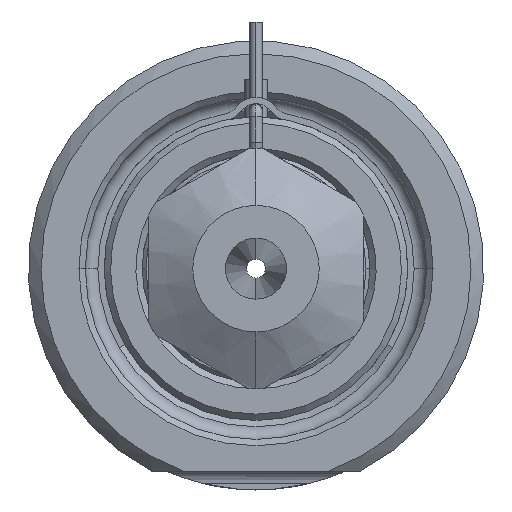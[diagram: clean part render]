
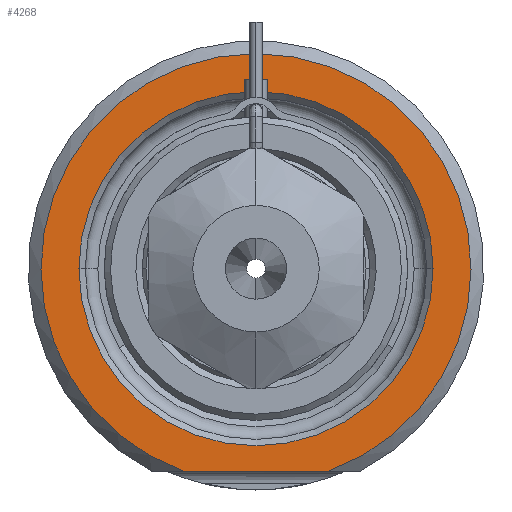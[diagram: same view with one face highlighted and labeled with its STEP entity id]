
A CAD part, front view. The second image highlights one B-rep face of the part: STEP entity #4268.
In plain terms, the highlighted planar face has unit normal (0, -1, 0).
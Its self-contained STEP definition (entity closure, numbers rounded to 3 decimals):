
#1350=CARTESIAN_POINT('',(0.,0.,0.));
#1351=DIRECTION('',(0.,-1.,0.));
#1352=DIRECTION('',(0.338,0.,-0.941));
#1353=AXIS2_PLACEMENT_3D('',#1350,#1351,#1352);
#1374=DIRECTION('',(1.,0.,0.));
#1375=VECTOR('',#1374,11.489);
#1376=CARTESIAN_POINT('',(-5.745,0.,-16.));
#1377=LINE('',#1376,#1375);
#1378=CARTESIAN_POINT('',(0.,0.,0.));
#1379=DIRECTION('',(0.,1.,0.));
#1380=DIRECTION('',(-1.,0.,0.));
#1381=AXIS2_PLACEMENT_3D('',#1378,#1379,#1380);
#1383=CARTESIAN_POINT('',(0.,0.,0.));
#1384=DIRECTION('',(0.,1.,0.));
#1385=DIRECTION('',(1.,0.,0.));
#1386=AXIS2_PLACEMENT_3D('',#1383,#1384,#1385);
#2269=CARTESIAN_POINT('',(-14.,0.,0.));
#2270=CARTESIAN_POINT('',(14.,0.,0.));
#2271=VERTEX_POINT('',#2269);
#2272=VERTEX_POINT('',#2270);
#2319=CARTESIAN_POINT('',(-5.745,0.,-16.));
#2320=CARTESIAN_POINT('',(5.745,0.,-16.));
#2321=VERTEX_POINT('',#2319);
#2322=VERTEX_POINT('',#2320);
#4253=CARTESIAN_POINT('',(0.,0.,0.));
#4254=DIRECTION('',(0.,-1.,0.));
#4255=DIRECTION('',(1.,0.,0.));
#4256=AXIS2_PLACEMENT_3D('',#4253,#4254,#4255);
#4257=PLANE('',#4256);
#4258=ORIENTED_EDGE('',*,*,#4185,.F.);
#4259=ORIENTED_EDGE('',*,*,#4245,.F.);
#4260=EDGE_LOOP('',(#4258,#4259));
#4261=FACE_OUTER_BOUND('',#4260,.F.);
#4263=ORIENTED_EDGE('',*,*,#4262,.F.);
#4265=ORIENTED_EDGE('',*,*,#4264,.F.);
#4266=EDGE_LOOP('',(#4263,#4265));
#4267=FACE_BOUND('',#4266,.F.);
#4268=ADVANCED_FACE('',(#4261,#4267),#4257,.T.);
#1354=CIRCLE('',#1353,17.);
#1382=CIRCLE('',#1381,14.);
#1387=CIRCLE('',#1386,14.);
#4185=EDGE_CURVE('',#2321,#2322,#1377,.T.);
#4245=EDGE_CURVE('',#2322,#2321,#1354,.T.);
#4262=EDGE_CURVE('',#2271,#2272,#1382,.T.);
#4264=EDGE_CURVE('',#2272,#2271,#1387,.T.);
